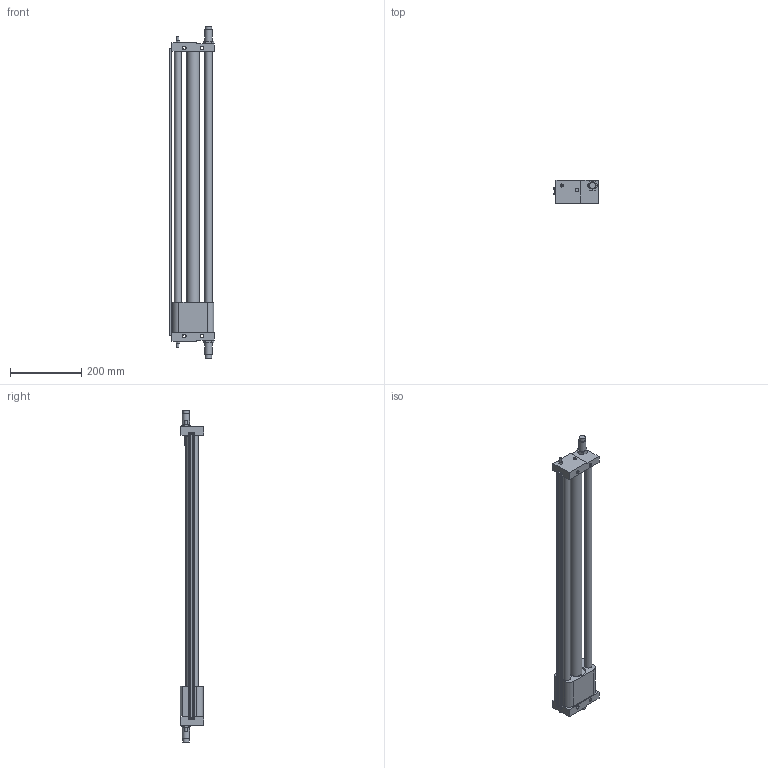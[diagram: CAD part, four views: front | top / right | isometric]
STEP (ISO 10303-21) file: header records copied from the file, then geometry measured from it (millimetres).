
FILE_DESCRIPTION( ( 'STEP AP214' ), '1' );
FILE_NAME( 'C:/Users/EMC02301/Desktop/222/ESWT32X700-S-B.stp', '2026-07-29T07:26:21', ( 'License CC BY-ND 4.0' ), ( 'CADENAS' ), ' ', 'PARTsolutions', ' ' );
FILE_SCHEMA( ( 'AUTOMOTIVE_DESIGN { 1 0 10303 214 1 1 1 1 }' ) );
Length unit declared in the file: millimetre
Products named in the file (4): ESWT32X700-S-B()(0); _ESWT32X700-S-B(0)()_dummy; _ESWT32X700-S-B(0)()_ROD; _ESWT32X700(0)()_BODY
Assembly tree (3 placements, depth 2):
  ESWT32X700-S-B()(0)
    _ESWT32X700-S-B(0)()_dummy
    _ESWT32X700-S-B(0)()_ROD
    _ESWT32X700(0)()_BODY
Bounding box: 125.5 x 66 x 933 mm (x, y, z)
Volume: 2122732.8 mm3; surface area: 362500.4 mm2
Topology: 2 solids, 5 shells, 199 faces, 431 edges, 281 vertices
Faces by surface type: plane 114, cylinder 49, cone 34, torus 2
Full cylindrical faces by diameter (mm): 3.5 x2, 4.134 x4, 5.8 x2, 6 x6, 6.647 x4, 8.376 x4, 8.5 x4, 8.566 x2, 9.6 x2, 14 x4, 17.8 x2, 20 x6, 35 x2, 55 x2
Entity records: 6555 total; most frequent: DIRECTION 875, CARTESIAN_POINT 801, ORIENTED_EDGE 666, EDGE_LOOP 341, AXIS2_PLACEMENT_3D 339, EDGE_CURVE 333, VERTEX_POINT 264, FACE_OUTER_BOUND 247
